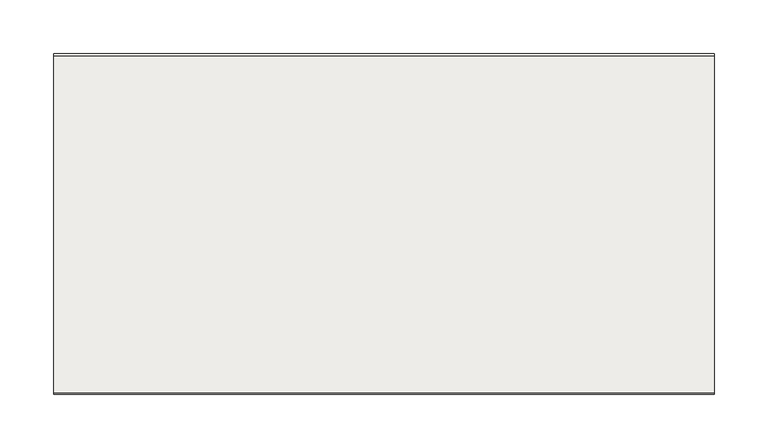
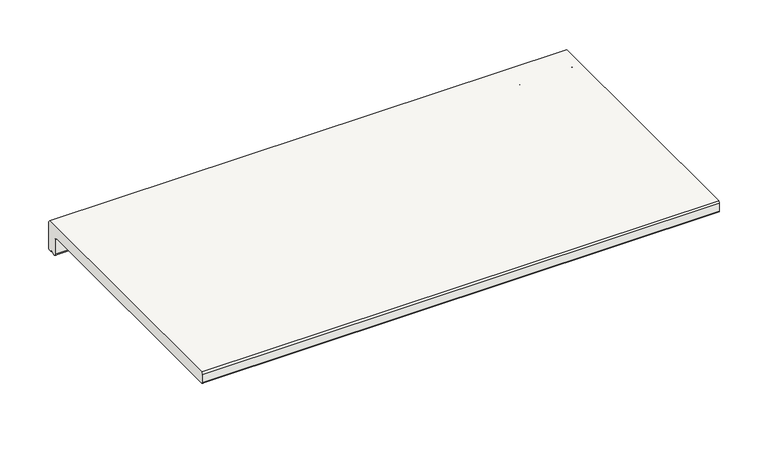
"""IFC4 building model written with IfcOpenShell, lengths in millimetres: slab geometry, ROSA GRES_L62 : Pieza L62_Mistery_Grey_Anti-Slip."""

from ifc_helpers import new_model, si_unit, point, frame, frame_2d, origin, place, context, project, spatial, polyline, circle_curve, trimmed, segment, composite_curve, outline, extrude, source, transform, mapped, element, save


def slab_c08b25ca(model_context):
    return source(origin(), model_context, "Body", "SweptSolid", [
        extrude(outline(composite_curve([segment(trimmed(circle_curve(frame_2d((-12.1001991, -35.1001991)), 1.8998009), [point((-12.1001991, -37.0))], [point((-14.0, -35.1001991))], False, "CARTESIAN"), True, "CONTINUOUS"), segment(polyline([(-14.0, -35.1001991), (-14.0, -16.5836242)]), True, "CONTINUOUS"), segment(trimmed(circle_curve(frame_2d((-16.6422322, -16.5836242)), 2.6422322), [point((-14.0, -16.5836242))], [point((-16.6422322, -13.9413919))], True, "CARTESIAN"), True, "CONTINUOUS"), segment(polyline([(-16.6422322, -13.9413919), (-315.5234432, -13.9413919)]), True, "CONTINUOUS"), segment(trimmed(circle_curve(frame_2d((-315.5234432, -12.4648352)), 1.4765568), [point((-315.5234432, -13.9413919))], [point((-317.0, -12.4648352))], False, "CARTESIAN"), True, "CONTINUOUS"), segment(polyline([(-317.0, -12.4648352), (-317.0, -2.5), (-315.5, 0.0), (-2.5, 0.0), (0.0, -2.5), (0.0, -34.5)]), True, "CONTINUOUS"), segment(trimmed(circle_curve(frame_2d((-2.5, -34.5)), 2.5), [point((0.0, -34.5))], [point((-2.5, -37.0))], False, "CARTESIAN"), True, "CONTINUOUS"), segment(polyline([(-2.5, -37.0), (-5.422949, -37.0)]), True, "CONTINUOUS"), segment(trimmed(circle_curve(frame_2d((-7.4142134, -37.0)), 1.9912643), [point((-5.422949, -37.0))], [point((-9.4054777, -37.0))], True, "CARTESIAN"), True, "CONTINUOUS"), segment(polyline([(-9.4054777, -37.0), (-12.1001991, -37.0)]), True, "CONTINUOUS")], self_intersect=False)), frame((0.0, 0.0, 0.0), z_axis=(1.0, 0.0, 0.0), x_axis=(0.0, 1.0, 0.0)), (0.0, 0.0, 1.0), 615.0),
    ])


if __name__ == "__main__":
    model = new_model("IFC4")
    model_context = context("Model", 3, world=origin())
    ifc_project = project(units=[si_unit("LENGTHUNIT", "METRE", prefix="MILLI")], contexts=[model_context])
    site = spatial("IfcSite", under=ifc_project)
    building = spatial("IfcBuilding", under=site)
    placement = place(None, origin())
    slab_shape = slab_c08b25ca(model_context)
    element("IfcSlab", 1, ObjectType="ROSA GRES_L62 : Pieza L62_Mistery_Grey_Anti-Slip", at=placement, inside=building, context=model_context, shape_type="MappedRepresentation", body=[
        mapped(slab_shape, transform((0.0, 0.0, 0.0), x_axis=(1.0, 0.0, 0.0), y_axis=(0.0, 1.0, 0.0), z_axis=(0.0, 0.0, 1.0))),
    ])
    save(model, "model.ifc")
